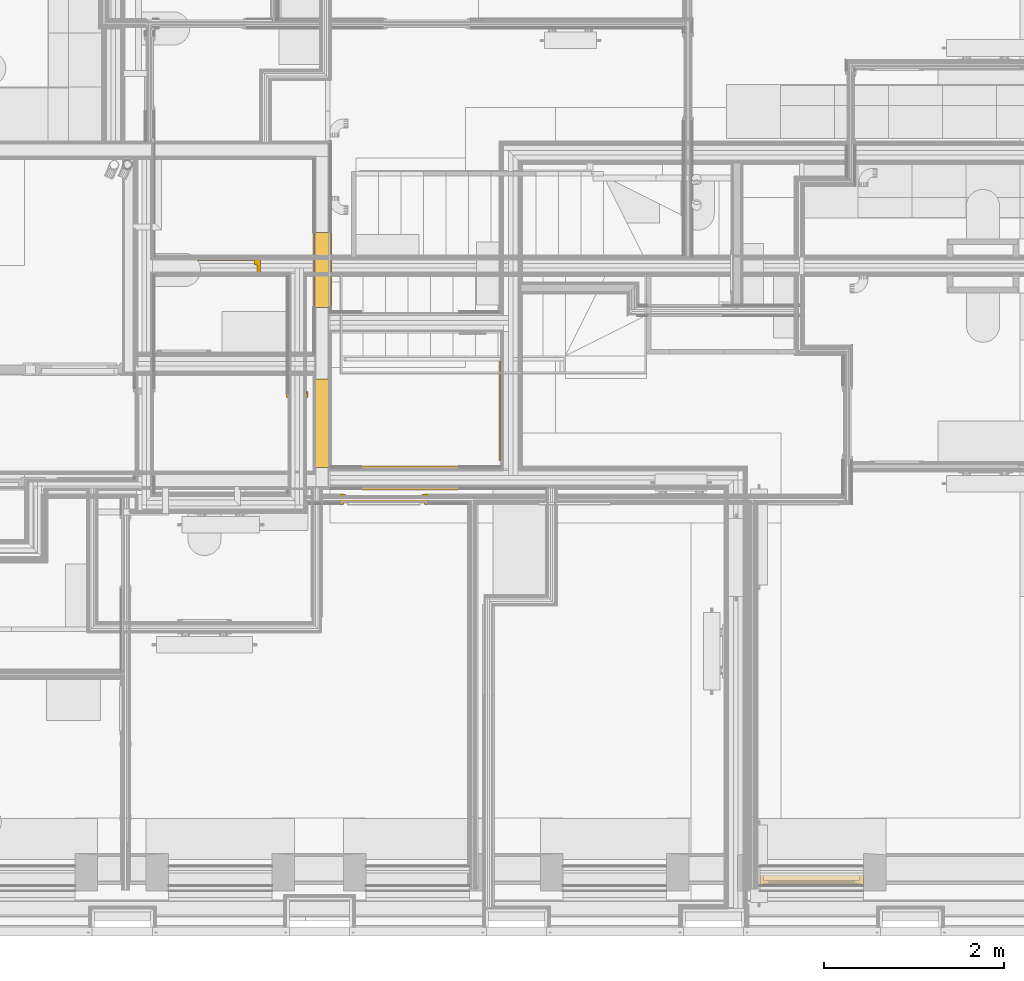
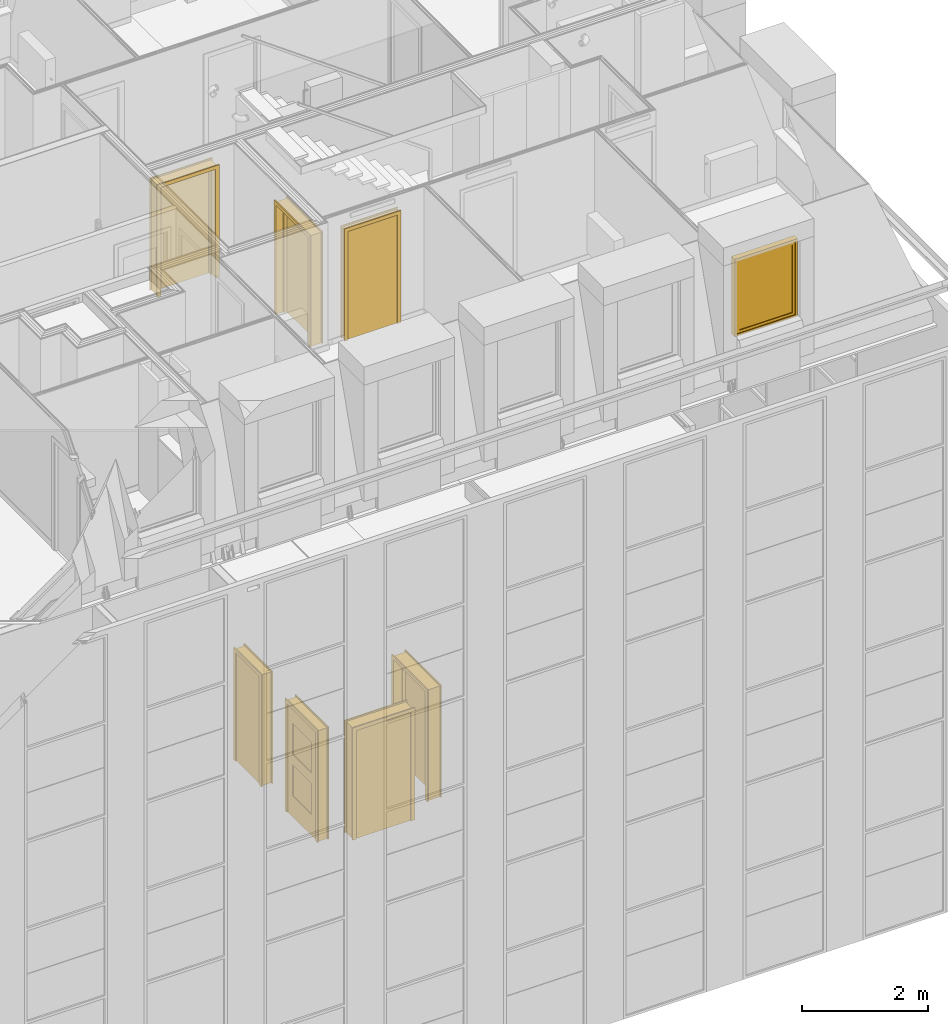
# One storey, part 127 of 169: 7 doors, 1 window.
"""IFC2X3 building model written with IfcOpenShell, lengths in metres."""

from ifc_helpers import new_model, entity, si_unit, converted_unit, derived_unit, money_unit, direction, frame, origin_with_axes, place, context, subcontext, project, spatial, faceted_brep, material, type_object, element, save


model = new_model("IFC2X3")

# Units and contexts
model_context = context("Model", 3, precision=1e-05, world=origin_with_axes(), true_north=direction((0.0, 1.0)))
body_context = subcontext(model_context, "Body", "Model", "MODEL_VIEW", scale=1.0)
ifc_project = project(units=[si_unit("LENGTHUNIT", "METRE"), si_unit("AREAUNIT", "SQUARE_METRE"), si_unit("VOLUMEUNIT", "CUBIC_METRE"), si_unit("ABSORBEDDOSEUNIT", "GRAY"), si_unit("AMOUNTOFSUBSTANCEUNIT", "MOLE"), si_unit("DOSEEQUIVALENTUNIT", "SIEVERT"), si_unit("ELECTRICCAPACITANCEUNIT", "FARAD"), si_unit("ELECTRICCHARGEUNIT", "COULOMB"), si_unit("ELECTRICCONDUCTANCEUNIT", "SIEMENS"), si_unit("ELECTRICCURRENTUNIT", "AMPERE"), si_unit("ELECTRICRESISTANCEUNIT", "OHM"), si_unit("ELECTRICVOLTAGEUNIT", "VOLT"), si_unit("ENERGYUNIT", "JOULE"), si_unit("FORCEUNIT", "NEWTON"), si_unit("FREQUENCYUNIT", "HERTZ"), si_unit("ILLUMINANCEUNIT", "LUX"), si_unit("INDUCTANCEUNIT", "HENRY"), si_unit("LUMINOUSFLUXUNIT", "LUMEN"), si_unit("LUMINOUSINTENSITYUNIT", "CANDELA"), si_unit("MAGNETICFLUXDENSITYUNIT", "TESLA"), si_unit("MAGNETICFLUXUNIT", "WEBER"), si_unit("MASSUNIT", "GRAM"), converted_unit("PLANEANGLEUNIT", "degree", entity("IfcReal", 0.0174532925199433), si_unit("PLANEANGLEUNIT", "RADIAN"), dimensions=[0, 0, 0, 0, 0, 0, 0]), si_unit("POWERUNIT", "WATT"), si_unit("PRESSUREUNIT", "PASCAL"), si_unit("RADIOACTIVITYUNIT", "BECQUEREL"), si_unit("SOLIDANGLEUNIT", "STERADIAN"), si_unit("THERMODYNAMICTEMPERATUREUNIT", "KELVIN"), si_unit("TIMEUNIT", "SECOND"), derived_unit("ACCELERATIONUNIT", [(si_unit("LENGTHUNIT", "METRE"), 1), (si_unit("TIMEUNIT", "SECOND"), -2)]), derived_unit("ANGULARVELOCITYUNIT", [(converted_unit("PLANEANGLEUNIT", "degree", entity("IfcReal", 0.0174532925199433), si_unit("PLANEANGLEUNIT", "RADIAN"), dimensions=[0, 0, 0, 0, 0, 0, 0]), 1), (si_unit("TIMEUNIT", "SECOND"), -1)]), derived_unit("CURVATUREUNIT", [(converted_unit("PLANEANGLEUNIT", "degree", entity("IfcReal", 0.0174532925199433), si_unit("PLANEANGLEUNIT", "RADIAN"), dimensions=[0, 0, 0, 0, 0, 0, 0]), 1), (si_unit("LENGTHUNIT", "METRE"), -1)]), derived_unit("DYNAMICVISCOSITYUNIT", [(si_unit("PRESSUREUNIT", "PASCAL"), 1), (si_unit("TIMEUNIT", "SECOND"), 1)]), derived_unit("HEATFLUXDENSITYUNIT", [(si_unit("POWERUNIT", "WATT"), 1), (si_unit("LENGTHUNIT", "METRE"), -2)]), derived_unit("HEATINGVALUEUNIT", [(si_unit("ENERGYUNIT", "JOULE"), 1), (si_unit("MASSUNIT", "GRAM"), -1)]), derived_unit("INTEGERCOUNTRATEUNIT", [(si_unit("TIMEUNIT", "SECOND"), -1)]), derived_unit("IONCONCENTRATIONUNIT", [(si_unit("MASSUNIT", "GRAM"), 1), (si_unit("VOLUMEUNIT", "CUBIC_METRE"), -1)]), derived_unit("ISOTHERMALMOISTURECAPACITYUNIT", [(si_unit("VOLUMEUNIT", "CUBIC_METRE"), 1), (si_unit("MASSUNIT", "GRAM"), -1)]), derived_unit("KINEMATICVISCOSITYUNIT", [(si_unit("AREAUNIT", "SQUARE_METRE"), 1), (si_unit("TIMEUNIT", "SECOND"), -1)]), derived_unit("LINEARFORCEUNIT", [(si_unit("FORCEUNIT", "NEWTON"), 1), (si_unit("LENGTHUNIT", "METRE"), -1)]), derived_unit("LINEARMOMENTUNIT", [(si_unit("FORCEUNIT", "NEWTON"), 1), (si_unit("LENGTHUNIT", "METRE"), -1)]), derived_unit("LINEARSTIFFNESSUNIT", [(si_unit("FORCEUNIT", "NEWTON"), 1), (si_unit("LENGTHUNIT", "METRE"), -1)]), derived_unit("LINEARVELOCITYUNIT", [(si_unit("LENGTHUNIT", "METRE"), 1), (si_unit("TIMEUNIT", "SECOND"), -1)]), derived_unit("LUMINOUSINTENSITYDISTRIBUTIONUNIT", [(si_unit("LUMINOUSINTENSITYUNIT", "CANDELA"), 1), (si_unit("LUMINOUSFLUXUNIT", "LUMEN"), -1)]), derived_unit("MASSDENSITYUNIT", [(si_unit("MASSUNIT", "GRAM"), 1), (si_unit("VOLUMEUNIT", "CUBIC_METRE"), -1)]), derived_unit("MASSFLOWRATEUNIT", [(si_unit("MASSUNIT", "GRAM"), 1), (si_unit("TIMEUNIT", "SECOND"), -1)]), derived_unit("MASSPERLENGTHUNIT", [(si_unit("MASSUNIT", "GRAM"), 1), (si_unit("LENGTHUNIT", "METRE"), -1)]), derived_unit("MODULUSOFELASTICITYUNIT", [(si_unit("FORCEUNIT", "NEWTON"), 1), (si_unit("AREAUNIT", "SQUARE_METRE"), -1)]), derived_unit("MODULUSOFLINEARSUBGRADEREACTIONUNIT", [(si_unit("FORCEUNIT", "NEWTON"), 1), (si_unit("LENGTHUNIT", "METRE"), -2)]), derived_unit("MODULUSOFROTATIONALSUBGRADEREACTIONUNIT", [(si_unit("FORCEUNIT", "NEWTON"), 1), (si_unit("LENGTHUNIT", "METRE"), 1)]), derived_unit("MODULUSOFSUBGRADEREACTIONUNIT", [(si_unit("FORCEUNIT", "NEWTON"), 1), (si_unit("VOLUMEUNIT", "CUBIC_METRE"), -1)]), derived_unit("MOISTUREDIFFUSIVITYUNIT", [(si_unit("VOLUMEUNIT", "CUBIC_METRE"), 1), (si_unit("TIMEUNIT", "SECOND"), -1)]), derived_unit("MOLECULARWEIGHTUNIT", [(si_unit("MASSUNIT", "GRAM"), 1), (si_unit("AMOUNTOFSUBSTANCEUNIT", "MOLE"), -1)]), derived_unit("PLANARFORCEUNIT", [(si_unit("FORCEUNIT", "NEWTON"), 1), (si_unit("LENGTHUNIT", "METRE"), -2)]), derived_unit("ROTATIONALFREQUENCYUNIT", [(si_unit("TIMEUNIT", "SECOND"), -1)]), derived_unit("ROTATIONALMASSUNIT", [(si_unit("MASSUNIT", "GRAM"), 1), (si_unit("LENGTHUNIT", "METRE"), 2)]), derived_unit("ROTATIONALSTIFFNESSUNIT", [(si_unit("FORCEUNIT", "NEWTON"), 1), (si_unit("LENGTHUNIT", "METRE"), 1), (converted_unit("PLANEANGLEUNIT", "degree", entity("IfcReal", 0.0174532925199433), si_unit("PLANEANGLEUNIT", "RADIAN"), dimensions=[0, 0, 0, 0, 0, 0, 0]), -1)]), derived_unit("SECTIONAREAINTEGRALUNIT", [(si_unit("LENGTHUNIT", "METRE"), 5)]), derived_unit("SECTIONMODULUSUNIT", [(si_unit("LENGTHUNIT", "METRE"), 3)]), derived_unit("SHEARMODULUSUNIT", [(si_unit("FORCEUNIT", "NEWTON"), 1), (si_unit("AREAUNIT", "SQUARE_METRE"), -1)]), derived_unit("SOUNDPOWERUNIT", [(si_unit("ENERGYUNIT", "JOULE"), 1), (si_unit("TIMEUNIT", "SECOND"), -1)]), derived_unit("SPECIFICHEATCAPACITYUNIT", [(si_unit("FORCEUNIT", "NEWTON"), 1), (si_unit("MASSUNIT", "GRAM"), -1), (si_unit("THERMODYNAMICTEMPERATUREUNIT", "KELVIN"), -1)]), derived_unit("TEMPERATUREGRADIENTUNIT", [(si_unit("THERMODYNAMICTEMPERATUREUNIT", "KELVIN"), 1), (si_unit("LENGTHUNIT", "METRE"), -1)]), derived_unit("THERMALADMITTANCEUNIT", [(si_unit("POWERUNIT", "WATT"), 1), (si_unit("AREAUNIT", "SQUARE_METRE"), -1), (si_unit("THERMODYNAMICTEMPERATUREUNIT", "KELVIN"), -1)]), derived_unit("THERMALCONDUCTANCEUNIT", [(si_unit("POWERUNIT", "WATT"), 1), (si_unit("LENGTHUNIT", "METRE"), -1), (si_unit("THERMODYNAMICTEMPERATUREUNIT", "KELVIN"), -1)]), derived_unit("THERMALEXPANSIONCOEFFICIENTUNIT", [(si_unit("THERMODYNAMICTEMPERATUREUNIT", "KELVIN"), -1)]), derived_unit("THERMALRESISTANCEUNIT", [(si_unit("AREAUNIT", "SQUARE_METRE"), 1), (si_unit("POWERUNIT", "WATT"), -1)]), derived_unit("THERMALTRANSMITTANCEUNIT", [(si_unit("POWERUNIT", "WATT"), 1), (si_unit("AREAUNIT", "SQUARE_METRE"), -1), (si_unit("THERMODYNAMICTEMPERATUREUNIT", "KELVIN"), -1)]), derived_unit("TORQUEUNIT", [(si_unit("FORCEUNIT", "NEWTON"), 1), (si_unit("LENGTHUNIT", "METRE"), 1)]), derived_unit("VAPORPERMEABILITYUNIT", [(si_unit("MASSUNIT", "GRAM"), 1), (si_unit("TIMEUNIT", "SECOND"), -1)]), derived_unit("VOLUMETRICFLOWRATEUNIT", [(si_unit("VOLUMEUNIT", "CUBIC_METRE"), 1), (si_unit("TIMEUNIT", "SECOND"), -1)]), derived_unit("WARPINGCONSTANTUNIT", [(si_unit("LENGTHUNIT", "METRE"), 6)]), derived_unit("WARPINGMOMENTUNIT", [(si_unit("FORCEUNIT", "NEWTON"), 1), (si_unit("LENGTHUNIT", "METRE"), 2)]), money_unit("GBP")], contexts=[model_context])

# Site, building, storey, space
site_placement = place(None, origin_with_axes())
site = spatial("IfcSite", under=ifc_project, at=site_placement, Name="Site", CompositionType="ELEMENT")
building_placement = place(site_placement, origin_with_axes())
building = spatial("IfcBuilding", under=site, at=building_placement, Name="Building01", CompositionType="ELEMENT")
storey_placement = place(building_placement, frame((0.0, 0.0, 5.15), z_axis=(0.0, 0.0, 1.0), x_axis=(1.0, 0.0, 0.0)))
storey = spatial("IfcBuildingStorey", under=building, at=storey_placement, Name="1F", CompositionType="ELEMENT", Elevation=5.15)
space_1_placement = place(storey_placement, frame((22.740024, 4.817, 9.86), z_axis=(0.0, 0.0, 1.0), x_axis=(0.0, -1.0, 0.0)))
space_1 = spatial("IfcSpace", under=storey, at=space_1_placement, Name="3", CompositionType="ELEMENT", InteriorOrExteriorSpace="NOTDEFINED")

# Window
ifc_material_1 = material(Name="A_BSUK_Windows")
window_style = type_object("IfcWindowStyle", Name="A-Awning", ConstructionType="NOTDEFINED", OperationType="USERDEFINED", ParameterTakesPrecedence=False, Sizeable=False)
window_placement = place(storey_placement, frame((23.930024, 0.549939, 10.83), z_axis=(0.0, 0.0, 1.0), x_axis=(1.0, 0.0, 0.0)))
element("IfcWindow", 1, at=window_placement, inside=space_1, type_object=window_style, material=ifc_material_1, Name="4.10", ObjectType="A-Awning", OverallHeight=1.50000000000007, OverallWidth=1.15000000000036, context=body_context, shape_type="Brep", body=[
    faceted_brep([(-1.108, 0.0254, 0.042), (-0.042, 0.0254, 0.042), (-0.042, 0.1254, 0.042), (-1.108, 0.1254, 0.042), (-1.108, 0.0254, 1.458), (-1.108, 0.1254, 1.458), (-0.042, 0.0254, 1.458), (-0.042, 0.1254, 1.458), (0.0, 0.0254, 0.0), (0.0, 0.0254, 1.5), (-1.15, 0.0254, 1.5), (-1.15, 0.0254, 0.0), (0.0, 0.1254, 1.5), (-1.15, 0.1254, 1.5), (-1.15, 0.1254, 0.0), (0.0, 0.1254, 0.0)], [[[0, 1, 2, 3]], [[4, 0, 3, 5]], [[6, 4, 5, 7]], [[8, 9, 10, 11], [4, 6, 1, 0]], [[1, 6, 7, 2]], [[12, 13, 10, 9]], [[14, 15, 8, 11]], [[13, 14, 11, 10]], [[13, 12, 15, 14], [2, 7, 5, 3]], [[15, 12, 9, 8]]]),
    faceted_brep([(-1.0572, 0.0354, 0.0928), (-0.0928, 0.0354, 0.0928), (-0.0928, 0.0704, 0.0928), (-1.0572, 0.0704, 0.0928), (-1.0572, 0.0354, 1.4072), (-1.0572, 0.0704, 1.4072), (-0.0928, 0.0354, 1.4072), (-0.0928, 0.0704, 1.4072), (-1.108, 0.0704, 1.458), (-0.042, 0.0704, 1.458), (-0.042, 0.0704, 0.042), (-1.108, 0.0704, 0.042), (-1.108, 0.0354, 1.458), (-0.042, 0.0354, 1.458), (-0.042, 0.0354, 0.042), (-1.108, 0.0354, 0.042)], [[[0, 1, 2, 3]], [[4, 0, 3, 5]], [[6, 4, 5, 7]], [[8, 9, 10, 11], [2, 7, 5, 3]], [[9, 8, 12, 13]], [[10, 9, 13, 14]], [[11, 10, 14, 15]], [[8, 11, 15, 12]], [[14, 13, 12, 15], [4, 6, 1, 0]], [[1, 6, 7, 2]]]),
    faceted_brep([(-0.0928, 0.049725, 0.0928), (-0.0928, 0.056075, 0.0928), (-0.0928, 0.056075, 1.4072), (-0.0928, 0.049725, 1.4072), (-1.0572, 0.049725, 1.4072), (-1.0572, 0.056075, 1.4072), (-1.0572, 0.056075, 0.0928), (-1.0572, 0.049725, 0.0928)], [[[0, 1, 2, 3]], [[4, 5, 6, 7]], [[3, 2, 5, 4]], [[3, 4, 7, 0]], [[7, 6, 1, 0]], [[1, 6, 5, 2]]]),
])

# Space
space_2_placement = place(storey_placement, frame((17.73844, 7.349915, 9.86), z_axis=(0.0, 0.0, 1.0), x_axis=(0.0, -1.0, 0.0)))
space_2 = spatial("IfcSpace", under=storey, at=space_2_placement, Name="24", CompositionType="ELEMENT", InteriorOrExteriorSpace="NOTDEFINED")

# Door
ifc_material_2 = material(Name="A_BSUK_Doors")
door_style_1 = type_object("IfcDoorStyle", Name="A-Doors-SingleFlush", ConstructionType="USERDEFINED", OperationType="SINGLE_SWING_LEFT", ParameterTakesPrecedence=False, Sizeable=False)
door_1_placement = place(storey_placement, frame((19.049976, 4.817, 9.83), z_axis=(0.0, 0.0, 1.0), x_axis=(-1.0, 0.0, 0.0)))
element("IfcDoor", 2, at=door_1_placement, inside=space_2, type_object=door_style_1, material=ifc_material_2, Name="4.16", ObjectType="A-Doors-SingleFlush", OverallHeight=2.16900000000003, OverallWidth=1.03800000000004, context=body_context, shape_type="Brep", body=[
    faceted_brep([(0.0, -0.099, 2.1), (0.9, -0.099, 2.1), (0.9, -0.099, 0.0), (0.969, -0.099, 0.0), (0.969, -0.099, 2.169), (-0.069, -0.099, 2.169), (-0.069, -0.099, 0.0), (0.0, -0.099, 0.0), (0.969, -0.08, 2.169), (0.969, -0.08, 0.0), (-0.069, -0.08, 0.0), (-0.069, -0.08, 2.169), (-0.042, -0.08, 0.0), (-0.042, 0.0, 0.0), (-0.069, 0.0, 0.0), (-0.069, 0.019, 0.0), (0.0, 0.019, 0.0), (0.0, 0.019, 2.1), (0.9, 0.019, 2.1), (-0.069, 0.019, 2.169), (0.969, 0.019, 2.169), (0.969, 0.019, 0.0), (0.9, 0.019, 0.0), (-0.069, 0.0, 2.169), (-0.042, 0.0, 2.142), (-0.042, -0.08, 2.142), (0.942, 0.0, 2.142), (0.942, -0.08, 2.142), (0.942, -0.08, 0.0), (0.942, 0.0, 0.0), (0.969, 0.0, 0.0), (0.969, 0.0, 2.169)], [[[0, 1, 2, 3, 4, 5, 6, 7]], [[8, 4, 3, 9]], [[10, 6, 5, 11]], [[11, 5, 4, 8]], [[7, 6, 10, 12, 13, 14, 15, 16]], [[7, 16, 17, 0]], [[0, 17, 18, 1]], [[17, 16, 15, 19, 20, 21, 22, 18]], [[1, 18, 22, 2]], [[14, 23, 19, 15]], [[24, 13, 12, 25]], [[26, 24, 25, 27]], [[11, 8, 9, 28, 27, 25, 12, 10]], [[27, 28, 29, 26]], [[26, 29, 30, 31, 23, 14, 13, 24]], [[22, 21, 30, 29, 28, 9, 3, 2]], [[30, 21, 20, 31]], [[31, 20, 19, 23]]]),
    faceted_brep([(0.9, -0.09, 0.0), (0.9, -0.04, 0.0), (0.9, -0.04, 2.1), (0.9, -0.09, 2.1), (0.025, -0.09, 2.075), (0.875, -0.09, 2.075), (0.875, -0.09, 0.0), (0.0, -0.09, 2.1), (0.0, -0.09, 0.0), (0.025, -0.09, 0.0), (0.0, -0.04, 0.0), (0.025, -0.04, 0.0), (0.0, -0.04, 2.1), (0.025, -0.04, 2.075), (0.875, -0.04, 0.0), (0.875, -0.04, 2.075)], [[[0, 1, 2, 3]], [[4, 5, 6, 0, 3, 7, 8, 9]], [[9, 8, 10, 11]], [[3, 2, 12, 7]], [[7, 12, 10, 8]], [[13, 11, 10, 12, 2, 1, 14, 15]], [[5, 15, 14, 6]], [[14, 1, 0, 6]], [[9, 11, 13, 4]], [[4, 13, 15, 5]]]),
    faceted_brep([(0.0, -0.04, 2.1), (0.0, 0.0, 2.1), (0.0, 0.0, 0.0), (0.0, -0.04, 0.0), (0.9, -0.04, 0.0), (0.9, 0.0, 0.0), (0.9, 0.0, 2.1), (0.9, -0.04, 2.1)], [[[0, 1, 2, 3]], [[4, 5, 6, 7]], [[3, 2, 5, 4]], [[3, 4, 7, 0]], [[7, 6, 1, 0]], [[1, 6, 5, 2]]]),
])

# Space
space_3_placement = place(storey_placement, frame((20.122661, 5.205, 0.017975), z_axis=(0.0, 0.0, 1.0), x_axis=(1.0, 0.0, 0.0)))
space_3 = spatial("IfcSpace", under=storey, at=space_3_placement, Name="03", CompositionType="ELEMENT", InteriorOrExteriorSpace="NOTDEFINED")

# Door
door_style_2 = type_object("IfcDoorStyle", Name="A-Doors-SingleFlush", ConstructionType="USERDEFINED", OperationType="SINGLE_SWING_RIGHT", ParameterTakesPrecedence=False, Sizeable=False)
door_2_placement = place(storey_placement, frame((20.122661, 6.357147, 0.0), z_axis=(0.0, 0.0, 1.0), x_axis=(0.0, -1.0, 0.0)))
element("IfcDoor", 3, at=door_2_placement, inside=space_3, type_object=door_style_2, material=ifc_material_2, Name="1.10", ObjectType="A-Doors-SingleFlush", OverallHeight=2.16900000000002, OverallWidth=1.13800000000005, context=body_context, shape_type="Brep", body=[
    faceted_brep([(1.0, -0.244, 0.0), (1.069, -0.244, 0.0), (1.069, -0.244, 2.169), (-0.069, -0.244, 2.169), (-0.069, -0.244, 0.0), (0.0, -0.244, 0.0), (0.0, -0.244, 2.1), (1.0, -0.244, 2.1), (-0.069, -0.225, 0.0), (-0.069, -0.225, 2.169), (1.069, -0.225, 2.169), (1.069, -0.225, 0.0), (1.0, 0.019, 0.0), (1.069, 0.019, 0.0), (1.069, 0.0, 0.0), (1.042, 0.0, 0.0), (1.042, -0.225, 0.0), (1.0, 0.019, 2.1), (0.0, 0.019, 2.1), (0.0, 0.019, 0.0), (-0.069, 0.019, 0.0), (-0.069, 0.019, 2.169), (1.069, 0.019, 2.169), (1.069, 0.0, 2.169), (1.042, -0.225, 2.142), (1.042, 0.0, 2.142), (-0.042, -0.225, 2.142), (-0.042, 0.0, 2.142), (-0.042, -0.225, 0.0), (-0.042, 0.0, 0.0), (-0.069, 0.0, 2.169), (-0.069, 0.0, 0.0)], [[[0, 1, 2, 3, 4, 5, 6, 7]], [[8, 4, 3, 9]], [[10, 2, 1, 11]], [[9, 3, 2, 10]], [[12, 13, 14, 15, 16, 11, 1, 0]], [[7, 17, 12, 0]], [[6, 18, 17, 7]], [[18, 19, 20, 21, 22, 13, 12, 17]], [[5, 19, 18, 6]], [[13, 22, 23, 14]], [[24, 16, 15, 25]], [[26, 24, 25, 27]], [[11, 16, 24, 26, 28, 8, 9, 10]], [[27, 29, 28, 26]], [[25, 15, 14, 23, 30, 31, 29, 27]], [[5, 4, 8, 28, 29, 31, 20, 19]], [[30, 21, 20, 31]], [[23, 22, 21, 30]]]),
    faceted_brep([(0.0, -0.09, 2.1), (0.0, -0.04, 2.1), (0.0, -0.04, 0.0), (0.0, -0.09, 0.0), (0.975, -0.09, 0.0), (1.0, -0.09, 0.0), (1.0, -0.09, 2.1), (0.025, -0.09, 0.0), (0.025, -0.09, 2.075), (0.975, -0.09, 2.075), (0.975, -0.04, 0.0), (1.0, -0.04, 0.0), (1.0, -0.04, 2.1), (0.025, -0.04, 2.075), (0.025, -0.04, 0.0), (0.975, -0.04, 2.075)], [[[0, 1, 2, 3]], [[4, 5, 6, 0, 3, 7, 8, 9]], [[10, 11, 5, 4]], [[6, 12, 1, 0]], [[5, 11, 12, 6]], [[13, 14, 2, 1, 12, 11, 10, 15]], [[7, 14, 13, 8]], [[7, 3, 2, 14]], [[9, 15, 10, 4]], [[8, 13, 15, 9]]]),
    faceted_brep([(1.0, -0.04, 0.0), (1.0, 0.0, 0.0), (1.0, 0.0, 2.1), (1.0, -0.04, 2.1), (0.0, -0.04, 2.1), (0.0, 0.0, 2.1), (0.0, 0.0, 0.0), (0.0, -0.04, 0.0)], [[[0, 1, 2, 3]], [[4, 5, 6, 7]], [[7, 6, 1, 0]], [[3, 4, 7, 0]], [[3, 2, 5, 4]], [[1, 6, 5, 2]]]),
])

# Space
space_4_placement = place(storey_placement, frame((14.85, 4.98, 0.017975), z_axis=(0.0, 0.0, 1.0), x_axis=(0.0, -1.0, 0.0)))
space_4 = spatial("IfcSpace", under=storey, at=space_4_placement, Name="04", CompositionType="ELEMENT", InteriorOrExteriorSpace="NOTDEFINED")

# Door
door_style_3 = type_object("IfcDoorStyle", Name="A-Doors-SingleFlush", ConstructionType="USERDEFINED", OperationType="SINGLE_SWING_LEFT", ParameterTakesPrecedence=False, Sizeable=False)
door_3_placement = place(storey_placement, frame((19.392, 4.98, 0.0), z_axis=(0.0, 0.0, 1.0), x_axis=(-1.0, 0.0, 0.0)))
element("IfcDoor", 4, at=door_3_placement, inside=space_4, type_object=door_style_3, material=ifc_material_2, Name="1.12", ObjectType="A-Doors-SingleFlush", OverallHeight=2.16900000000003, OverallWidth=1.13800000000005, context=body_context, shape_type="Brep", body=[
    faceted_brep([(0.0, -0.244, 2.1), (1.0, -0.244, 2.1), (1.0, -0.244, 0.0), (1.069, -0.244, 0.0), (1.069, -0.244, 2.169), (-0.069, -0.244, 2.169), (-0.069, -0.244, 0.0), (0.0, -0.244, 0.0), (1.069, -0.225, 2.169), (1.069, -0.225, 0.0), (-0.069, -0.225, 0.0), (-0.069, -0.225, 2.169), (-0.042, -0.225, 0.0), (-0.042, 0.0, 0.0), (-0.069, 0.0, 0.0), (-0.069, 0.019, 0.0), (0.0, 0.019, 0.0), (0.0, 0.019, 2.1), (1.0, 0.019, 2.1), (-0.069, 0.019, 2.169), (1.069, 0.019, 2.169), (1.069, 0.019, 0.0), (1.0, 0.019, 0.0), (-0.069, 0.0, 2.169), (-0.042, 0.0, 2.142), (-0.042, -0.225, 2.142), (1.042, 0.0, 2.142), (1.042, -0.225, 2.142), (1.042, -0.225, 0.0), (1.042, 0.0, 0.0), (1.069, 0.0, 0.0), (1.069, 0.0, 2.169)], [[[0, 1, 2, 3, 4, 5, 6, 7]], [[8, 4, 3, 9]], [[10, 6, 5, 11]], [[11, 5, 4, 8]], [[7, 6, 10, 12, 13, 14, 15, 16]], [[7, 16, 17, 0]], [[0, 17, 18, 1]], [[17, 16, 15, 19, 20, 21, 22, 18]], [[1, 18, 22, 2]], [[14, 23, 19, 15]], [[24, 13, 12, 25]], [[26, 24, 25, 27]], [[11, 8, 9, 28, 27, 25, 12, 10]], [[27, 28, 29, 26]], [[26, 29, 30, 31, 23, 14, 13, 24]], [[22, 21, 30, 29, 28, 9, 3, 2]], [[30, 21, 20, 31]], [[31, 20, 19, 23]]]),
    faceted_brep([(1.0, -0.09, 0.0), (1.0, -0.04, 0.0), (1.0, -0.04, 2.1), (1.0, -0.09, 2.1), (0.025, -0.09, 2.075), (0.975, -0.09, 2.075), (0.975, -0.09, 0.0), (0.0, -0.09, 2.1), (0.0, -0.09, 0.0), (0.025, -0.09, 0.0), (0.0, -0.04, 0.0), (0.025, -0.04, 0.0), (0.0, -0.04, 2.1), (0.025, -0.04, 2.075), (0.975, -0.04, 0.0), (0.975, -0.04, 2.075)], [[[0, 1, 2, 3]], [[4, 5, 6, 0, 3, 7, 8, 9]], [[9, 8, 10, 11]], [[3, 2, 12, 7]], [[7, 12, 10, 8]], [[13, 11, 10, 12, 2, 1, 14, 15]], [[5, 15, 14, 6]], [[14, 1, 0, 6]], [[9, 11, 13, 4]], [[4, 13, 15, 5]]]),
    faceted_brep([(0.0, -0.04, 2.1), (0.0, 0.0, 2.1), (0.0, 0.0, 0.0), (0.0, -0.04, 0.0), (1.0, -0.04, 0.0), (1.0, 0.0, 0.0), (1.0, 0.0, 2.1), (1.0, -0.04, 2.1)], [[[0, 1, 2, 3]], [[4, 5, 6, 7]], [[3, 2, 5, 4]], [[3, 4, 7, 0]], [[7, 6, 1, 0]], [[1, 6, 5, 2]]]),
])

# Space
space_5_placement = place(storey_placement, frame((15.83, 8.82, 0.017975), z_axis=(0.0, 0.0, 1.0), x_axis=(0.0, -1.0, 0.0)))
space_5 = spatial("IfcSpace", under=storey, at=space_5_placement, Name="02", CompositionType="ELEMENT", InteriorOrExteriorSpace="NOTDEFINED")

# Door
door_style_4 = type_object("IfcDoorStyle", Name="A-Doors-SingleFlush", ConstructionType="USERDEFINED", OperationType="SINGLE_SWING_RIGHT", ParameterTakesPrecedence=False, Sizeable=False)
door_4_placement = place(storey_placement, frame((17.83, 7.02888, 0.0), z_axis=(0.0, 0.0, 1.0), x_axis=(0.0, 1.0, 0.0)))
element("IfcDoor", 5, at=door_4_placement, inside=space_5, type_object=door_style_4, material=ifc_material_2, Name="1.08", ObjectType="A-Doors-SingleFlush", OverallHeight=2.16900000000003, OverallWidth=0.888000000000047, context=body_context, shape_type="Brep", body=[
    faceted_brep([(0.75, -0.189, 0.0), (0.819, -0.189, 0.0), (0.819, -0.189, 2.169), (-0.069, -0.189, 2.169), (-0.069, -0.189, 0.0), (0.0, -0.189, 0.0), (0.0, -0.189, 2.1), (0.75, -0.189, 2.1), (-0.069, -0.17, 0.0), (-0.069, -0.17, 2.169), (0.819, -0.17, 2.169), (0.819, -0.17, 0.0), (0.75, 0.019, 0.0), (0.819, 0.019, 0.0), (0.819, 0.0, 0.0), (0.792, 0.0, 0.0), (0.792, -0.17, 0.0), (0.75, 0.019, 2.1), (0.0, 0.019, 2.1), (0.0, 0.019, 0.0), (-0.069, 0.019, 0.0), (-0.069, 0.019, 2.169), (0.819, 0.019, 2.169), (0.819, 0.0, 2.169), (0.792, -0.17, 2.142), (0.792, 0.0, 2.142), (-0.042, -0.17, 2.142), (-0.042, 0.0, 2.142), (-0.042, -0.17, 0.0), (-0.042, 0.0, 0.0), (-0.069, 0.0, 2.169), (-0.069, 0.0, 0.0)], [[[0, 1, 2, 3, 4, 5, 6, 7]], [[8, 4, 3, 9]], [[10, 2, 1, 11]], [[9, 3, 2, 10]], [[12, 13, 14, 15, 16, 11, 1, 0]], [[7, 17, 12, 0]], [[6, 18, 17, 7]], [[18, 19, 20, 21, 22, 13, 12, 17]], [[5, 19, 18, 6]], [[13, 22, 23, 14]], [[24, 16, 15, 25]], [[26, 24, 25, 27]], [[11, 16, 24, 26, 28, 8, 9, 10]], [[27, 29, 28, 26]], [[25, 15, 14, 23, 30, 31, 29, 27]], [[5, 4, 8, 28, 29, 31, 20, 19]], [[30, 21, 20, 31]], [[23, 22, 21, 30]]]),
    faceted_brep([(0.0, -0.09, 2.1), (0.0, -0.04, 2.1), (0.0, -0.04, 0.0), (0.0, -0.09, 0.0), (0.725, -0.09, 0.0), (0.75, -0.09, 0.0), (0.75, -0.09, 2.1), (0.025, -0.09, 0.0), (0.025, -0.09, 2.075), (0.725, -0.09, 2.075), (0.725, -0.04, 0.0), (0.75, -0.04, 0.0), (0.75, -0.04, 2.1), (0.025, -0.04, 2.075), (0.025, -0.04, 0.0), (0.725, -0.04, 2.075)], [[[0, 1, 2, 3]], [[4, 5, 6, 0, 3, 7, 8, 9]], [[10, 11, 5, 4]], [[6, 12, 1, 0]], [[5, 11, 12, 6]], [[13, 14, 2, 1, 12, 11, 10, 15]], [[7, 14, 13, 8]], [[7, 3, 2, 14]], [[9, 15, 10, 4]], [[8, 13, 15, 9]]]),
    faceted_brep([(0.75, -0.04, 0.0), (0.75, 0.0, 0.0), (0.75, 0.0, 2.1), (0.75, -0.04, 2.1), (0.0, -0.04, 2.1), (0.0, 0.0, 2.1), (0.0, 0.0, 0.0), (0.0, -0.04, 0.0)], [[[0, 1, 2, 3]], [[4, 5, 6, 7]], [[7, 6, 1, 0]], [[3, 4, 7, 0]], [[3, 2, 5, 4]], [[1, 6, 5, 2]]]),
])

# Space
space_6_placement = place(storey_placement, frame((9.227386, 6.85, 0.017932), z_axis=(0.0, 0.0, 1.0), x_axis=(0.0, -1.0, 0.0)))
space_6 = spatial("IfcSpace", under=storey, at=space_6_placement, Name="hall (vented)", CompositionType="ELEMENT", InteriorOrExteriorSpace="NOTDEFINED")

# Door
door_style_5 = type_object("IfcDoorStyle", Name="A-Doors-SingleVisionPanels", ConstructionType="USERDEFINED", OperationType="SINGLE_SWING_LEFT", ParameterTakesPrecedence=False, Sizeable=False)
door_5_placement = place(storey_placement, frame((17.83, 5.25, 0.0), z_axis=(0.0, 0.0, 1.0), x_axis=(0.0, 1.0, 0.0)))
element("IfcDoor", 6, at=door_5_placement, inside=space_6, type_object=door_style_5, material=ifc_material_2, Name="1.02", ObjectType="A-Doors-SingleVisionPanels", OverallHeight=2.16900000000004, OverallWidth=1.03800000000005, context=body_context, shape_type="Brep", body=[
    faceted_brep([(0.0, -0.189, 2.1), (0.9, -0.189, 2.1), (0.9, -0.189, 0.0), (0.969, -0.189, 0.0), (0.969, -0.189, 2.169), (-0.069, -0.189, 2.169), (-0.069, -0.189, 0.0), (0.0, -0.189, 0.0), (0.969, -0.17, 2.169), (0.969, -0.17, 0.0), (-0.069, -0.17, 0.0), (-0.069, -0.17, 2.169), (-0.042, -0.17, 0.0), (-0.042, 0.0, 0.0), (-0.069, 0.0, 0.0), (-0.069, 0.019, 0.0), (0.0, 0.019, 0.0), (0.0, 0.019, 2.1), (0.9, 0.019, 2.1), (-0.069, 0.019, 2.169), (0.969, 0.019, 2.169), (0.969, 0.019, 0.0), (0.9, 0.019, 0.0), (-0.069, 0.0, 2.169), (-0.042, 0.0, 2.142), (-0.042, -0.17, 2.142), (0.942, 0.0, 2.142), (0.942, -0.17, 2.142), (0.942, -0.17, 0.0), (0.942, 0.0, 0.0), (0.969, 0.0, 0.0), (0.969, 0.0, 2.169)], [[[0, 1, 2, 3, 4, 5, 6, 7]], [[8, 4, 3, 9]], [[10, 6, 5, 11]], [[11, 5, 4, 8]], [[7, 6, 10, 12, 13, 14, 15, 16]], [[7, 16, 17, 0]], [[0, 17, 18, 1]], [[17, 16, 15, 19, 20, 21, 22, 18]], [[1, 18, 22, 2]], [[14, 23, 19, 15]], [[24, 13, 12, 25]], [[26, 24, 25, 27]], [[11, 8, 9, 28, 27, 25, 12, 10]], [[27, 28, 29, 26]], [[26, 29, 30, 31, 23, 14, 13, 24]], [[22, 21, 30, 29, 28, 9, 3, 2]], [[30, 21, 20, 31]], [[31, 20, 19, 23]]]),
    faceted_brep([(0.9, -0.09, 0.0), (0.9, -0.04, 0.0), (0.9, -0.04, 2.1), (0.9, -0.09, 2.1), (0.025, -0.09, 2.075), (0.875, -0.09, 2.075), (0.875, -0.09, 0.0), (0.0, -0.09, 2.1), (0.0, -0.09, 0.0), (0.025, -0.09, 0.0), (0.0, -0.04, 0.0), (0.025, -0.04, 0.0), (0.0, -0.04, 2.1), (0.025, -0.04, 2.075), (0.875, -0.04, 0.0), (0.875, -0.04, 2.075)], [[[0, 1, 2, 3]], [[4, 5, 6, 0, 3, 7, 8, 9]], [[9, 8, 10, 11]], [[3, 2, 12, 7]], [[7, 12, 10, 8]], [[13, 11, 10, 12, 2, 1, 14, 15]], [[5, 15, 14, 6]], [[14, 1, 0, 6]], [[9, 11, 13, 4]], [[4, 13, 15, 5]]]),
    faceted_brep([(0.15, -0.017, 0.4), (0.15, -0.023, 0.4), (0.15, -0.023, 1.0), (0.15, -0.017, 1.0), (0.75, -0.017, 1.0), (0.75, -0.023, 1.0), (0.75, -0.023, 0.4), (0.75, -0.017, 0.4)], [[[0, 1, 2, 3]], [[4, 5, 6, 7]], [[3, 2, 5, 4]], [[3, 4, 7, 0]], [[7, 6, 1, 0]], [[1, 6, 5, 2]]]),
    faceted_brep([(0.15, -0.017, 1.2), (0.15, -0.023, 1.2), (0.15, -0.023, 1.8), (0.15, -0.017, 1.8), (0.75, -0.017, 1.8), (0.75, -0.023, 1.8), (0.75, -0.023, 1.2), (0.75, -0.017, 1.2)], [[[0, 1, 2, 3]], [[4, 5, 6, 7]], [[3, 2, 5, 4]], [[3, 4, 7, 0]], [[7, 6, 1, 0]], [[1, 6, 5, 2]]]),
    faceted_brep([(0.15, -0.04, 1.8), (0.15, 0.0, 1.8), (0.75, 0.0, 1.8), (0.75, -0.04, 1.8), (0.75, -0.04, 1.0), (0.75, 0.0, 1.0), (0.75, 0.0, 0.4), (0.75, -0.04, 0.4), (0.15, 0.0, 0.4), (0.15, -0.04, 0.4), (0.15, 0.0, 1.0), (0.15, -0.04, 1.0), (0.9, 0.0, 0.0), (0.0, 0.0, 0.0), (0.0, 0.0, 2.1), (0.9, 0.0, 2.1), (0.15, 0.0, 1.2), (0.75, 0.0, 1.2), (0.9, -0.04, 0.0), (0.9, -0.04, 2.1), (0.0, -0.04, 2.1), (0.0, -0.04, 0.0), (0.75, -0.04, 1.2), (0.15, -0.04, 1.2)], [[[0, 1, 2, 3]], [[4, 5, 6, 7]], [[7, 6, 8, 9]], [[9, 8, 10, 11]], [[11, 10, 5, 4]], [[12, 13, 14, 15], [5, 10, 8, 6], [2, 1, 16, 17]], [[18, 12, 15, 19]], [[19, 15, 14, 20]], [[20, 14, 13, 21]], [[21, 13, 12, 18]], [[3, 2, 17, 22]], [[22, 17, 16, 23]], [[23, 16, 1, 0]], [[19, 20, 21, 18], [9, 11, 4, 7], [23, 0, 3, 22]]]),
])

# Space
space_7_placement = place(storey_placement, frame((18.239976, 7.549915, 9.86), z_axis=(0.0, 0.0, 1.0), x_axis=(0.0, 1.0, 0.0)))
space_7 = spatial("IfcSpace", under=storey, at=space_7_placement, Name="corridor (protected)", CompositionType="ELEMENT", InteriorOrExteriorSpace="NOTDEFINED")

# Door
door_style_6 = type_object("IfcDoorStyle", Name="A-Doors-SingleFlush", ConstructionType="USERDEFINED", OperationType="SINGLE_SWING_LEFT", ParameterTakesPrecedence=False, Sizeable=False)
door_6_placement = place(storey_placement, frame((16.18844, 7.549915, 9.83), z_axis=(0.0, 0.0, 1.0), x_axis=(1.0, 0.0, 0.0)))
element("IfcDoor", 7, at=door_6_placement, inside=space_7, type_object=door_style_6, material=ifc_material_2, Name="4.04", ObjectType="A-Doors-SingleFlush", OverallHeight=2.16900000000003, OverallWidth=1.13800000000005, context=body_context, shape_type="Brep", body=[
    faceted_brep([(0.0, -0.219, 2.1), (1.0, -0.219, 2.1), (1.0, -0.219, 0.0), (1.069, -0.219, 0.0), (1.069, -0.219, 2.169), (-0.069, -0.219, 2.169), (-0.069, -0.219, 0.0), (0.0, -0.219, 0.0), (1.069, -0.2, 2.169), (1.069, -0.2, 0.0), (-0.069, -0.2, 0.0), (-0.069, -0.2, 2.169), (-0.042, -0.2, 0.0), (-0.042, 0.0, 0.0), (-0.069, 0.0, 0.0), (-0.069, 0.019, 0.0), (0.0, 0.019, 0.0), (0.0, 0.019, 2.1), (1.0, 0.019, 2.1), (-0.069, 0.019, 2.169), (1.069, 0.019, 2.169), (1.069, 0.019, 0.0), (1.0, 0.019, 0.0), (-0.069, 0.0, 2.169), (-0.042, 0.0, 2.142), (-0.042, -0.2, 2.142), (1.042, 0.0, 2.142), (1.042, -0.2, 2.142), (1.042, -0.2, 0.0), (1.042, 0.0, 0.0), (1.069, 0.0, 0.0), (1.069, 0.0, 2.169)], [[[0, 1, 2, 3, 4, 5, 6, 7]], [[8, 4, 3, 9]], [[10, 6, 5, 11]], [[11, 5, 4, 8]], [[7, 6, 10, 12, 13, 14, 15, 16]], [[7, 16, 17, 0]], [[0, 17, 18, 1]], [[17, 16, 15, 19, 20, 21, 22, 18]], [[1, 18, 22, 2]], [[14, 23, 19, 15]], [[24, 13, 12, 25]], [[26, 24, 25, 27]], [[11, 8, 9, 28, 27, 25, 12, 10]], [[27, 28, 29, 26]], [[26, 29, 30, 31, 23, 14, 13, 24]], [[22, 21, 30, 29, 28, 9, 3, 2]], [[30, 21, 20, 31]], [[31, 20, 19, 23]]]),
    faceted_brep([(1.0, -0.09, 0.0), (1.0, -0.04, 0.0), (1.0, -0.04, 2.1), (1.0, -0.09, 2.1), (0.025, -0.09, 2.075), (0.975, -0.09, 2.075), (0.975, -0.09, 0.0), (0.0, -0.09, 2.1), (0.0, -0.09, 0.0), (0.025, -0.09, 0.0), (0.0, -0.04, 0.0), (0.025, -0.04, 0.0), (0.0, -0.04, 2.1), (0.025, -0.04, 2.075), (0.975, -0.04, 0.0), (0.975, -0.04, 2.075)], [[[0, 1, 2, 3]], [[4, 5, 6, 0, 3, 7, 8, 9]], [[9, 8, 10, 11]], [[3, 2, 12, 7]], [[7, 12, 10, 8]], [[13, 11, 10, 12, 2, 1, 14, 15]], [[5, 15, 14, 6]], [[14, 1, 0, 6]], [[9, 11, 13, 4]], [[4, 13, 15, 5]]]),
    faceted_brep([(0.0, -0.04, 2.1), (0.0, 0.0, 2.1), (0.0, 0.0, 0.0), (0.0, -0.04, 0.0), (1.0, -0.04, 0.0), (1.0, 0.0, 0.0), (1.0, 0.0, 2.1), (1.0, -0.04, 2.1)], [[[0, 1, 2, 3]], [[4, 5, 6, 7]], [[3, 2, 5, 4]], [[3, 4, 7, 0]], [[7, 6, 1, 0]], [[1, 6, 5, 2]]]),
])

# Space
space_8_placement = place(storey_placement, frame((17.738128, 6.449915, 9.86), z_axis=(0.0, 0.0, 1.0), x_axis=(0.0, -1.0, 0.0)))
space_8 = spatial("IfcSpace", under=storey, at=space_8_placement, Name="corridor (protected)", CompositionType="ELEMENT", InteriorOrExteriorSpace="NOTDEFINED")

# Door
door_7_placement = place(storey_placement, frame((17.73844, 5.986, 9.83), z_axis=(0.0, 0.0, 1.0), x_axis=(0.0, -1.0, 0.0)))
element("IfcDoor", 8, at=door_7_placement, inside=space_8, type_object=door_style_6, material=ifc_material_2, Name="4.12", ObjectType="A-Doors-SingleFlush", OverallHeight=2.16900000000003, OverallWidth=1.13800000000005, context=body_context, shape_type="Brep", body=[
    faceted_brep([(0.0, -0.219, 2.1), (1.0, -0.219, 2.1), (1.0, -0.219, 0.0), (1.069, -0.219, 0.0), (1.069, -0.219, 2.169), (-0.069, -0.219, 2.169), (-0.069, -0.219, 0.0), (0.0, -0.219, 0.0), (1.069, -0.2, 2.169), (1.069, -0.2, 0.0), (-0.069, -0.2, 0.0), (-0.069, -0.2, 2.169), (-0.042, -0.2, 0.0), (-0.042, 0.0, 0.0), (-0.069, 0.0, 0.0), (-0.069, 0.019, 0.0), (0.0, 0.019, 0.0), (0.0, 0.019, 2.1), (1.0, 0.019, 2.1), (-0.069, 0.019, 2.169), (1.069, 0.019, 2.169), (1.069, 0.019, 0.0), (1.0, 0.019, 0.0), (-0.069, 0.0, 2.169), (-0.042, 0.0, 2.142), (-0.042, -0.2, 2.142), (1.042, 0.0, 2.142), (1.042, -0.2, 2.142), (1.042, -0.2, 0.0), (1.042, 0.0, 0.0), (1.069, 0.0, 0.0), (1.069, 0.0, 2.169)], [[[0, 1, 2, 3, 4, 5, 6, 7]], [[8, 4, 3, 9]], [[10, 6, 5, 11]], [[11, 5, 4, 8]], [[7, 6, 10, 12, 13, 14, 15, 16]], [[7, 16, 17, 0]], [[0, 17, 18, 1]], [[17, 16, 15, 19, 20, 21, 22, 18]], [[1, 18, 22, 2]], [[14, 23, 19, 15]], [[24, 13, 12, 25]], [[26, 24, 25, 27]], [[11, 8, 9, 28, 27, 25, 12, 10]], [[27, 28, 29, 26]], [[26, 29, 30, 31, 23, 14, 13, 24]], [[22, 21, 30, 29, 28, 9, 3, 2]], [[30, 21, 20, 31]], [[31, 20, 19, 23]]]),
    faceted_brep([(1.0, -0.09, 0.0), (1.0, -0.04, 0.0), (1.0, -0.04, 2.1), (1.0, -0.09, 2.1), (0.025, -0.09, 2.075), (0.975, -0.09, 2.075), (0.975, -0.09, 0.0), (0.0, -0.09, 2.1), (0.0, -0.09, 0.0), (0.025, -0.09, 0.0), (0.0, -0.04, 0.0), (0.025, -0.04, 0.0), (0.0, -0.04, 2.1), (0.025, -0.04, 2.075), (0.975, -0.04, 0.0), (0.975, -0.04, 2.075)], [[[0, 1, 2, 3]], [[4, 5, 6, 0, 3, 7, 8, 9]], [[9, 8, 10, 11]], [[3, 2, 12, 7]], [[7, 12, 10, 8]], [[13, 11, 10, 12, 2, 1, 14, 15]], [[5, 15, 14, 6]], [[14, 1, 0, 6]], [[9, 11, 13, 4]], [[4, 13, 15, 5]]]),
    faceted_brep([(0.0, -0.04, 2.1), (0.0, 0.0, 2.1), (0.0, 0.0, 0.0), (0.0, -0.04, 0.0), (1.0, -0.04, 0.0), (1.0, 0.0, 0.0), (1.0, 0.0, 2.1), (1.0, -0.04, 2.1)], [[[0, 1, 2, 3]], [[4, 5, 6, 7]], [[3, 2, 5, 4]], [[3, 4, 7, 0]], [[7, 6, 1, 0]], [[1, 6, 5, 2]]]),
])

save(model, "model.ifc")
